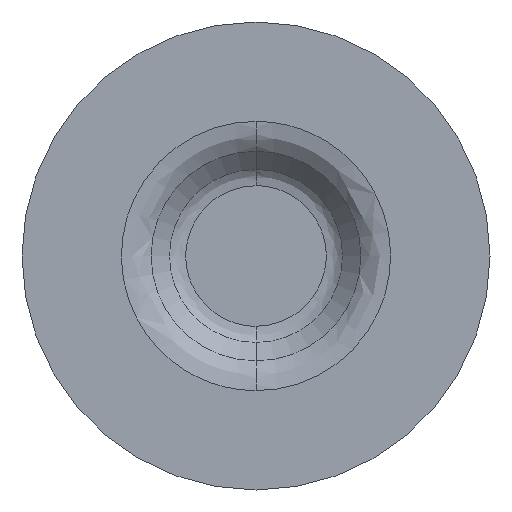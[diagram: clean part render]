
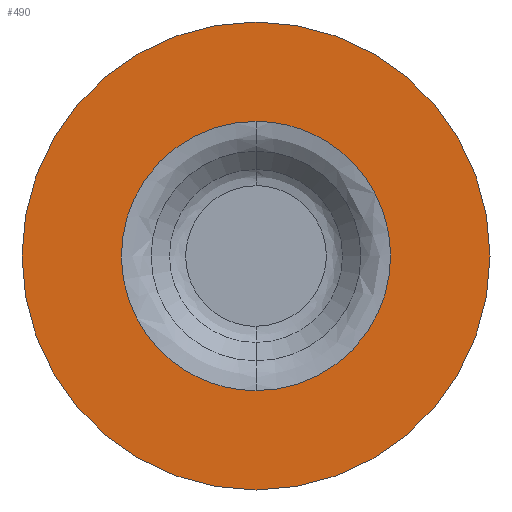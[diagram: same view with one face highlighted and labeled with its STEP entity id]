
A CAD part, front view. The second image highlights one B-rep face of the part: STEP entity #490.
In plain terms, the highlighted planar face has unit normal (0, -1, 0).
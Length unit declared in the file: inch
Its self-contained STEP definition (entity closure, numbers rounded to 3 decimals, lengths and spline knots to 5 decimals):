
#18 = CARTESIAN_POINT ( 'NONE',  ( 0., -0.15, -0.35957 ) ) ;
#21 = CARTESIAN_POINT ( 'NONE',  ( 0.71915, -0.15, -0.35957 ) ) ;
#63 = CARTESIAN_POINT ( 'NONE',  ( 0.35957, -0.15, 0. ) ) ;
#68 = CARTESIAN_POINT ( 'NONE',  ( 0., -0.15, -0.625 ) ) ;
#107 = CIRCLE ( 'NONE', #198, 0.625 ) ;
#110 = DIRECTION ( 'NONE',  ( 0., 1., 0. ) ) ;
#111 = ORIENTED_EDGE ( 'NONE', *, *, #495, .F. ) ;
#163 = CARTESIAN_POINT ( 'NONE',  ( -0.71915, -0.15, 0.35957 ) ) ;
#181 = VERTEX_POINT ( 'NONE', #313 ) ;
#189 = AXIS2_PLACEMENT_3D ( 'NONE', #63, #388, #437 ) ;
#198 = AXIS2_PLACEMENT_3D ( 'NONE', #458, #349, #406 ) ;
#208 = ORIENTED_EDGE ( 'NONE', *, *, #595, .F. ) ;
#251 = VERTEX_POINT ( 'NONE', #18 ) ;
#257 = EDGE_CURVE ( 'NONE', #637, #181, #107, .T. ) ;
#269 =( BOUNDED_CURVE ( )  B_SPLINE_CURVE ( 3, ( #599, #163, #325, #504 ),
 .UNSPECIFIED., .F., .T. ) 
 B_SPLINE_CURVE_WITH_KNOTS ( ( 4, 4 ),
 ( 0., 1. ),
 .UNSPECIFIED. ) 
 CURVE ( )  GEOMETRIC_REPRESENTATION_ITEM ( )  RATIONAL_B_SPLINE_CURVE ( ( 1., 0.333, 0.333, 1. ) ) 
 REPRESENTATION_ITEM ( '' )  );
#279 = FACE_OUTER_BOUND ( 'NONE', #645, .T. ) ;
#304 = ORIENTED_EDGE ( 'NONE', *, *, #653, .F. ) ;
#313 = CARTESIAN_POINT ( 'NONE',  ( 0., -0.15, 0.625 ) ) ;
#325 = CARTESIAN_POINT ( 'NONE',  ( -0.71915, -0.15, -0.35957 ) ) ;
#349 = DIRECTION ( 'NONE',  ( 0., 1., 0. ) ) ;
#356 = CARTESIAN_POINT ( 'NONE',  ( 0., -0.15, 0.35957 ) ) ;
#388 = DIRECTION ( 'NONE',  ( 0., 1., 0. ) ) ;
#398 = AXIS2_PLACEMENT_3D ( 'NONE', #610, #110, #603 ) ;
#406 = DIRECTION ( 'NONE',  ( 0., 0., 1. ) ) ;
#435 = PLANE ( 'NONE',  #189 ) ;
#437 = DIRECTION ( 'NONE',  ( 0., 0., 1. ) ) ;
#457 = CARTESIAN_POINT ( 'NONE',  ( 0.71915, -0.15, 0.35957 ) ) ;
#458 = CARTESIAN_POINT ( 'NONE',  ( 0., -0.15, 0. ) ) ;
#486 = ORIENTED_EDGE ( 'NONE', *, *, #257, .F. ) ;
#490 = ADVANCED_FACE ( 'NONE', ( #601, #279 ), #435, .F. ) ;
#495 = EDGE_CURVE ( 'NONE', #585, #251, #269, .T. ) ;
#504 = CARTESIAN_POINT ( 'NONE',  ( 0., -0.15, -0.35957 ) ) ;
#565 =( BOUNDED_CURVE ( )  B_SPLINE_CURVE ( 3, ( #614, #21, #457, #356 ),
 .UNSPECIFIED., .F., .F. ) 
 B_SPLINE_CURVE_WITH_KNOTS ( ( 4, 4 ),
 ( 0., 1. ),
 .UNSPECIFIED. ) 
 CURVE ( )  GEOMETRIC_REPRESENTATION_ITEM ( )  RATIONAL_B_SPLINE_CURVE ( ( 1., 0.333, 0.333, 1. ) ) 
 REPRESENTATION_ITEM ( '' )  );
#572 = CARTESIAN_POINT ( 'NONE',  ( 0., -0.15, 0.35957 ) ) ;
#575 = EDGE_LOOP ( 'NONE', ( #111, #208 ) ) ;
#585 = VERTEX_POINT ( 'NONE', #572 ) ;
#595 = EDGE_CURVE ( 'NONE', #251, #585, #565, .T. ) ;
#599 = CARTESIAN_POINT ( 'NONE',  ( 0., -0.15, 0.35957 ) ) ;
#601 = FACE_BOUND ( 'NONE', #575, .T. ) ;
#603 = DIRECTION ( 'NONE',  ( 0., 0., 1. ) ) ;
#610 = CARTESIAN_POINT ( 'NONE',  ( 0., -0.15, 0. ) ) ;
#614 = CARTESIAN_POINT ( 'NONE',  ( 0., -0.15, -0.35957 ) ) ;
#637 = VERTEX_POINT ( 'NONE', #68 ) ;
#645 = EDGE_LOOP ( 'NONE', ( #304, #486 ) ) ;
#653 = EDGE_CURVE ( 'NONE', #181, #637, #694, .T. ) ;
#694 = CIRCLE ( 'NONE', #398, 0.625 ) ;
